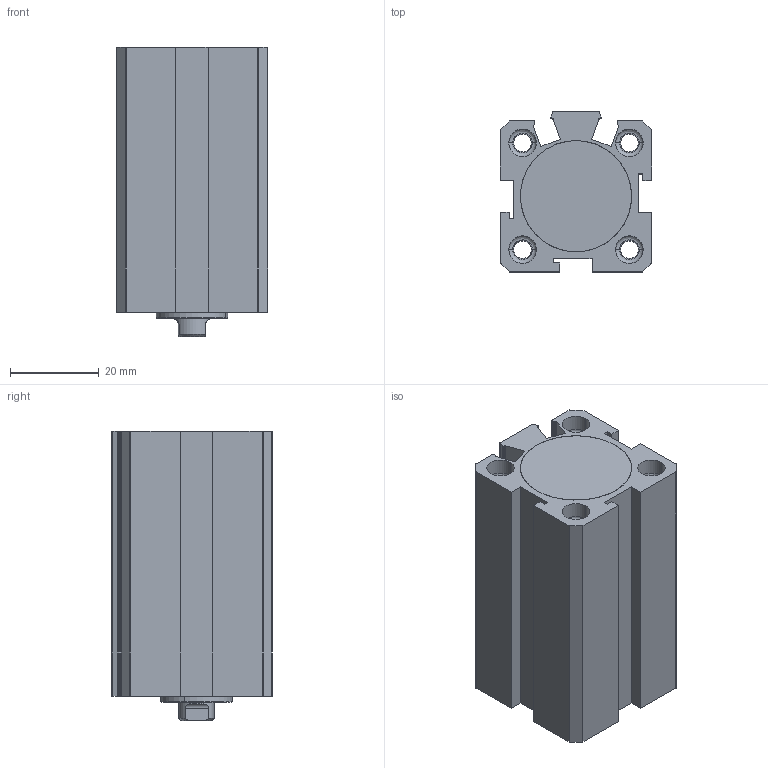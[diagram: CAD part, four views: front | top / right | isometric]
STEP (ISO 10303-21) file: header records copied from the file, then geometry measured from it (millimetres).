
FILE_DESCRIPTION (( 'STEP AP203' ), '1' );
FILE_NAME ('SDA-S-20X30CYLINDER.STEP', '2015-07-29T07:36:23', ( 'user' ), ( '' ), 'SwSTEP 2.0', 'SolidWorks 2013', '' );
FILE_SCHEMA (( 'CONFIG_CONTROL_DESIGN' ));
Length unit declared in the file: millimetre
Products named in the file (5): SDA-S 20 ARKA KAPAK; SDA-S 20 烰 KAPAK; SDA-S-20X30CYLINDER; SDA-S 20X30 BORU; SDA-S 20X30 M尳 VE TOP
Assembly tree (4 placements, depth 2):
  SDA-S-20X30CYLINDER
    SDA-S 20X30 BORU
    SDA-S 20X30 M尳 VE TOP
    SDA-S 20 ARKA KAPAK
    SDA-S 20 烰 KAPAK
Bounding box: 34 x 36 x 65 mm (x, y, z)
Volume: 50493.8 mm3; surface area: 26262.2 mm2
Topology: 4 solids, 4 shells, 210 faces, 507 edges, 329 vertices
Faces by surface type: cylinder 98, plane 78, cone 18, bspline 16
Entity records: 8243 total; most frequent: CARTESIAN_POINT 2757, DIRECTION 1070, ORIENTED_EDGE 1014, EDGE_CURVE 507, AXIS2_PLACEMENT_3D 412, VERTEX_POINT 329, EDGE_LOOP 250, VECTOR 246
